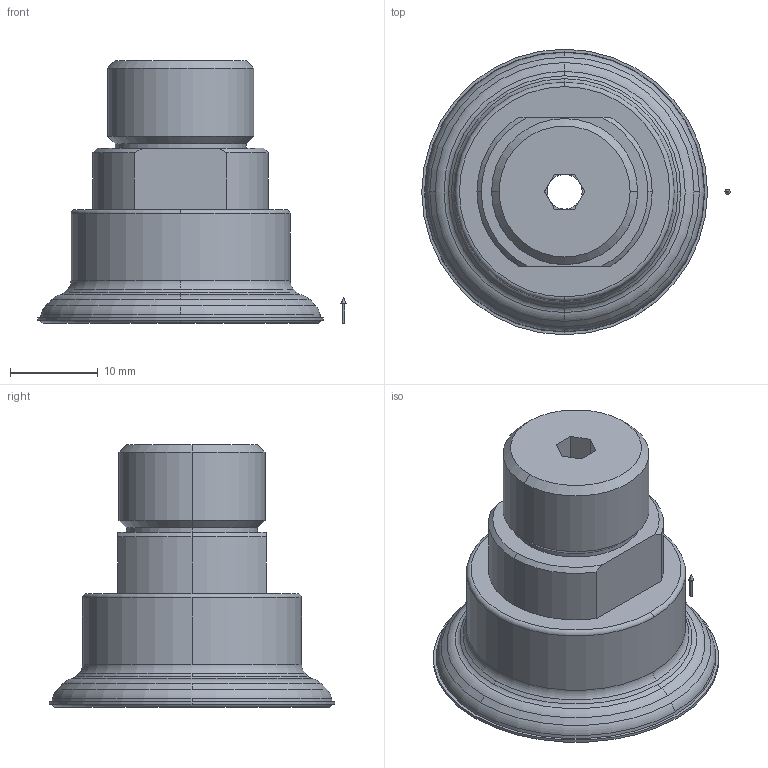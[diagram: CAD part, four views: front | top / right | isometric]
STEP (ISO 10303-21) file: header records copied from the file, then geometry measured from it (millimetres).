
FILE_DESCRIPTION(('STEP AP214'),'1');
FILE_NAME('10_01_01_11366.stp','2020-10-24T00:25:00',('TraceParts'),('TraceParts S.A.'),'Spatial InterOp 3D',' ',' ');
FILE_SCHEMA(('AUTOMOTIVE_DESIGN { 1 0 10303 214 1 1 1 1 }'));
Length unit declared in the file: millimetre
Products named in the file (1): 10_01_01_11366_1
Bounding box: 35.2 x 32.6 x 30 mm (x, y, z)
Volume: 8677.7 mm3; surface area: 4552 mm2
Topology: 2 solids, 3 shells, 110 faces, 260 edges, 163 vertices
Faces by surface type: cone 32, plane 28, cylinder 26, torus 24
Entity records: 4116 total; most frequent: DIRECTION 646, CARTESIAN_POINT 541, ORIENTED_EDGE 516, AXIS2_PLACEMENT_3D 280, EDGE_CURVE 258, CIRCLE 168, VERTEX_POINT 163, EDGE_LOOP 123
